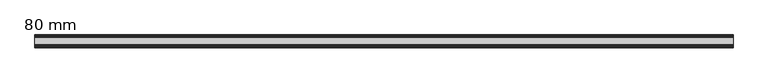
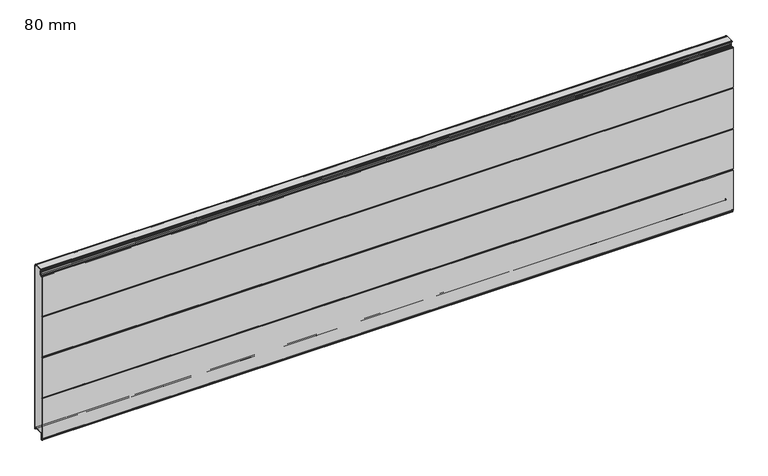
"""IFC4 building model written with IfcOpenShell, lengths in millimetres: plate geometry, HIANSA PANEL - H20.F02.003-PANELES DE FACHADA HORIZONTAL - PANEL SEMILISO - Panel de Muro Cortina : 80 mm."""

from ifc_helpers import new_model, si_unit, point, frame, frame_2d, origin, place, context, project, spatial, polyline, circle_curve, trimmed, segment, composite_curve, outline, extrude, source, transform, mapped, element, save


def plate_80_mm_353dea63(model_context):
    return source(origin(), model_context, "Body", "SweptSolid", [
        extrude(outline(polyline([(-63.7988607, 1122.7800953), (-63.0080811, 1123.2810466), (-13.7002601, 1123.2810466), (-12.8994274, 1122.7800953), (-63.7988607, 1122.7800953)])), frame((-2200.0, 0.0, 0.0), z_axis=(1.0, 0.0, 0.0), x_axis=(0.0, 1.0, 0.0)), (0.0, 0.0, 1.0), 4400.0),
        extrude(outline(polyline([(-63.7713844, 25.3200953), (-12.9220626, 25.3200953), (-13.7002595, 24.8210466), (-63.0110322, 24.8210466), (-63.7713844, 25.3200953)])), frame((-2200.0, 0.0, 0.0), z_axis=(1.0, 0.0, 0.0), x_axis=(0.0, 1.0, 0.0)), (0.0, 0.0, 1.0), 4400.0),
        extrude(outline(composite_curve([segment(polyline([(-79.9990488, 261.2060325), (-78.4829198, 265.1645587), (-79.9990488, 269.1230849), (-79.9990488, 536.2060325), (-78.4829198, 540.1645587), (-79.9990488, 544.1230849), (-79.9990488, 811.2060325), (-78.4829198, 815.1645587), (-79.9990488, 819.1230849), (-79.9990488, 1086.1667807), (-79.3593999, 1088.7253764)]), True, "CONTINUOUS"), segment(trimmed(circle_curve(frame_2d((-77.5161291, 1088.2645587)), 1.9), [point((-79.3593999, 1088.7253764))], [point((-77.5161291, 1090.1645587))], False, "CARTESIAN"), True, "CONTINUOUS"), segment(polyline([(-77.5161291, 1090.1645587), (-75.3767084, 1090.1645587)]), True, "CONTINUOUS"), segment(trimmed(circle_curve(frame_2d((-75.3767084, 1089.1645587)), 1.0), [point((-75.3767084, 1090.1645587))], [point((-74.3767084, 1089.1645587))], False, "CARTESIAN"), True, "CONTINUOUS"), segment(polyline([(-74.3767084, 1089.1645587), (-74.3767084, 1079.2490488)]), True, "CONTINUOUS"), segment(trimmed(circle_curve(frame_2d((-73.3767084, 1079.2490488)), 1.0), [point((-74.3767084, 1079.2490488))], [point((-73.3767084, 1078.2490488))], True, "CARTESIAN"), True, "CONTINUOUS"), segment(polyline([(-73.3767084, 1078.2490488), (-69.1267084, 1078.2490488)]), True, "CONTINUOUS"), segment(trimmed(circle_curve(frame_2d((-69.1267084, 1079.2490488)), 1.0), [point((-69.1267084, 1078.2490488))], [point((-68.1267084, 1079.2490488))], True, "CARTESIAN"), True, "CONTINUOUS"), segment(polyline([(-68.1267084, 1079.2490488), (-68.1267084, 1082.1003519)]), True, "CONTINUOUS"), segment(trimmed(circle_curve(frame_2d((-66.1267084, 1082.1003519)), 2.0), [point((-68.1267084, 1082.1003519))], [point((-67.2738613, 1083.738656))], False, "CARTESIAN"), True, "CONTINUOUS"), segment(polyline([(-67.2738613, 1083.738656), (-61.2163437, 1087.9801754)]), True, "CONTINUOUS"), segment(trimmed(circle_curve(frame_2d((-62.0767084, 1089.2089035)), 1.5), [point((-61.2163437, 1087.9801754))], [point((-60.5767084, 1089.2089035))], True, "CARTESIAN"), True, "CONTINUOUS"), segment(polyline([(-60.5767084, 1089.2089035), (-60.5767084, 1098.4402031), (-59.6767084, 1099.9990488), (-60.5767084, 1101.5578945), (-60.5767084, 1110.7891941)]), True, "CONTINUOUS"), segment(trimmed(circle_curve(frame_2d((-62.0767084, 1110.7891941)), 1.5), [point((-60.5767084, 1110.7891941))], [point((-61.2163437, 1112.0179221))], True, "CARTESIAN"), True, "CONTINUOUS"), segment(polyline([(-61.2163437, 1112.0179221), (-67.2738613, 1116.2594416)]), True, "CONTINUOUS"), segment(trimmed(circle_curve(frame_2d((-66.1267084, 1117.8977457)), 2.0), [point((-67.2738613, 1116.2594416))], [point((-68.1267084, 1117.8977457))], False, "CARTESIAN"), True, "CONTINUOUS"), segment(polyline([(-68.1267084, 1117.8977457), (-68.1267084, 1121.2800953)]), True, "CONTINUOUS"), segment(trimmed(circle_curve(frame_2d((-66.1267084, 1121.2800953)), 2.0), [point((-68.1267084, 1121.2800953))], [point((-66.1267084, 1123.2800953))], False, "CARTESIAN"), True, "CONTINUOUS"), segment(polyline([(-66.1267084, 1123.2800953), (-63.0095828, 1123.2800953), (-63.7988607, 1122.7800953), (-66.1267084, 1122.7800953)]), True, "CONTINUOUS"), segment(trimmed(circle_curve(frame_2d((-66.1267084, 1121.2800953)), 1.5), [point((-66.1267084, 1122.7800953))], [point((-67.6267084, 1121.2800953))], True, "CARTESIAN"), True, "CONTINUOUS"), segment(polyline([(-67.6267084, 1121.2800953), (-67.6267084, 1117.8977457)]), True, "CONTINUOUS"), segment(trimmed(circle_curve(frame_2d((-66.1267084, 1117.8977457)), 1.5), [point((-67.6267084, 1117.8977457))], [point((-66.987073, 1116.6690176))], True, "CARTESIAN"), True, "CONTINUOUS"), segment(polyline([(-66.987073, 1116.6690176), (-60.9295555, 1112.4274982)]), True, "CONTINUOUS"), segment(trimmed(circle_curve(frame_2d((-62.0767084, 1110.7891941)), 2.0), [point((-60.9295555, 1112.4274982))], [point((-60.0767084, 1110.7891941))], False, "CARTESIAN"), True, "CONTINUOUS"), segment(polyline([(-60.0767084, 1110.7891941), (-60.0767084, 1101.6918691), (-59.3880333, 1100.4990488)]), True, "CONTINUOUS"), segment(trimmed(circle_curve(frame_2d((-60.2540587, 1099.9990488)), 1.0), [point((-59.3880333, 1100.4990488))], [point((-59.3880333, 1099.4990488))], False, "CARTESIAN"), True, "CONTINUOUS"), segment(polyline([(-59.3880333, 1099.4990488), (-60.0767084, 1098.3062285), (-60.0767084, 1089.2089035)]), True, "CONTINUOUS"), segment(trimmed(circle_curve(frame_2d((-62.0767084, 1089.2089035)), 2.0), [point((-60.0767084, 1089.2089035))], [point((-60.9295555, 1087.5705994))], False, "CARTESIAN"), True, "CONTINUOUS"), segment(polyline([(-60.9295555, 1087.5705994), (-66.987073, 1083.32908)]), True, "CONTINUOUS"), segment(trimmed(circle_curve(frame_2d((-66.1267084, 1082.1003519)), 1.5), [point((-66.987073, 1083.32908))], [point((-67.6267084, 1082.1003519))], True, "CARTESIAN"), True, "CONTINUOUS"), segment(polyline([(-67.6267084, 1082.1003519), (-67.6267084, 1079.2490488)]), True, "CONTINUOUS"), segment(trimmed(circle_curve(frame_2d((-69.1267084, 1079.2490488)), 1.5), [point((-67.6267084, 1079.2490488))], [point((-69.1267084, 1077.7490488))], False, "CARTESIAN"), True, "CONTINUOUS"), segment(polyline([(-69.1267084, 1077.7490488), (-73.3767084, 1077.7490488)]), True, "CONTINUOUS"), segment(trimmed(circle_curve(frame_2d((-73.3767084, 1079.2490488)), 1.5), [point((-73.3767084, 1077.7490488))], [point((-74.8767084, 1079.2490488))], False, "CARTESIAN"), True, "CONTINUOUS"), segment(polyline([(-74.8767084, 1079.2490488), (-74.8767084, 1089.6645587), (-77.5161291, 1089.6645587)]), True, "CONTINUOUS"), segment(trimmed(circle_curve(frame_2d((-77.5161291, 1088.2645587)), 1.4), [point((-77.5161291, 1089.6645587))], [point((-78.8743286, 1088.6041086))], True, "CARTESIAN"), True, "CONTINUOUS"), segment(polyline([(-78.8743286, 1088.6041086), (-79.4990488, 1086.1052279), (-79.4990488, 819.2053746), (-77.9514025, 815.1645587), (-79.4990488, 811.1237428), (-79.4990488, 544.2053746), (-77.9514025, 540.1645587), (-79.4990488, 536.1237428), (-79.4990488, 269.2053746), (-77.9514025, 265.1645587), (-79.4990488, 261.1237428), (-79.4990488, -5.7761105), (-78.8741312, -8.2757808)]), True, "CONTINUOUS"), segment(trimmed(circle_curve(frame_2d((-77.5169431, -7.9364838)), 1.3989577), [point((-78.8741312, -8.2757808))], [point((-77.5169431, -9.3354415))], True, "CARTESIAN"), True, "CONTINUOUS"), segment(polyline([(-77.5169431, -9.3354415), (-75.1267084, -9.3354413)]), True, "CONTINUOUS"), segment(trimmed(circle_curve(frame_2d((-75.1267084, -10.8354413)), 1.5), [point((-75.1267084, -9.3354413))], [point((-73.6267084, -10.8354413))], False, "CARTESIAN"), True, "CONTINUOUS"), segment(polyline([(-73.6267084, -10.8354413), (-73.6267084, -20.7509512), (-68.8767084, -20.7509512), (-68.8767084, 22.7800953)]), True, "CONTINUOUS"), segment(trimmed(circle_curve(frame_2d((-66.3367084, 22.7800953)), 2.54), [point((-68.8767084, 22.7800953))], [point((-66.3367084, 25.3200953))], False, "CARTESIAN"), True, "CONTINUOUS"), segment(polyline([(-66.3367084, 25.3200953), (-63.7713844, 25.3200953), (-63.0095828, 24.8200953), (-66.3367084, 24.8200953)]), True, "CONTINUOUS"), segment(trimmed(circle_curve(frame_2d((-66.3367084, 22.7800953)), 2.04), [point((-66.3367084, 24.8200953))], [point((-68.3767084, 22.7800953))], True, "CARTESIAN"), True, "CONTINUOUS"), segment(polyline([(-68.3767084, 22.7800953), (-68.3767084, -20.2509512)]), True, "CONTINUOUS"), segment(trimmed(circle_curve(frame_2d((-69.3767084, -20.2509512)), 1.0), [point((-68.3767084, -20.2509512))], [point((-69.3767084, -21.2509512))], False, "CARTESIAN"), True, "CONTINUOUS"), segment(polyline([(-69.3767084, -21.2509512), (-73.1267084, -21.2509512)]), True, "CONTINUOUS"), segment(trimmed(circle_curve(frame_2d((-73.1267084, -20.2509512)), 1.0), [point((-73.1267084, -21.2509512))], [point((-74.1267084, -20.2509512))], False, "CARTESIAN"), True, "CONTINUOUS"), segment(polyline([(-74.1267084, -20.2509512), (-74.1267084, -10.8354413)]), True, "CONTINUOUS"), segment(trimmed(circle_curve(frame_2d((-75.1267084, -10.8354413)), 1.0), [point((-74.1267084, -10.8354413))], [point((-75.1267084, -9.8354413))], True, "CARTESIAN"), True, "CONTINUOUS"), segment(polyline([(-75.1267084, -9.8354413), (-77.5161291, -9.8354413)]), True, "CONTINUOUS"), segment(trimmed(circle_curve(frame_2d((-77.5161291, -7.9354413)), 1.9), [point((-77.5161291, -9.8354413))], [point((-79.3593999, -8.396259))], False, "CARTESIAN"), True, "CONTINUOUS"), segment(polyline([(-79.3593999, -8.396259), (-79.9990488, -5.8376633), (-79.9990488, 261.2060325)]), True, "CONTINUOUS")], self_intersect=False)), frame((-2200.0, 0.0, 0.0), z_axis=(1.0, 0.0, 0.0), x_axis=(0.0, 1.0, 0.0)), (0.0, 0.0, 1.0), 4400.0),
        extrude(outline(composite_curve([segment(polyline([(-79.4927405, -5.8041988), (-79.4927405, 261.1436493), (-77.9523542, 265.16551), (-79.5000005, 269.2063259), (-79.5000005, 536.1246941), (-77.9523542, 540.16551), (-79.5000005, 544.2063259), (-79.5000005, 811.1246941), (-77.9523542, 815.16551), (-79.4927405, 819.1873707), (-79.4927405, 1086.1352189), (-78.8752803, 1088.6050599)]), True, "CONTINUOUS"), segment(trimmed(circle_curve(frame_2d((-77.5170808, 1088.26551)), 1.4), [point((-78.8752803, 1088.6050599))], [point((-77.5170808, 1089.66551))], False, "CARTESIAN"), True, "CONTINUOUS"), segment(polyline([(-77.5170808, 1089.66551), (-74.8776601, 1089.66551), (-74.8776601, 1079.2500001)]), True, "CONTINUOUS"), segment(trimmed(circle_curve(frame_2d((-73.3776601, 1079.2500001)), 1.5), [point((-74.8776601, 1079.2500001))], [point((-73.3776601, 1077.7500001))], True, "CARTESIAN"), True, "CONTINUOUS"), segment(polyline([(-73.3776601, 1077.7500001), (-69.1276601, 1077.7500001)]), True, "CONTINUOUS"), segment(trimmed(circle_curve(frame_2d((-69.1276601, 1079.2500001)), 1.5), [point((-69.1276601, 1077.7500001))], [point((-67.6276601, 1079.2500001))], True, "CARTESIAN"), True, "CONTINUOUS"), segment(polyline([(-67.6276601, 1079.2500001), (-67.6276601, 1082.1013032)]), True, "CONTINUOUS"), segment(trimmed(circle_curve(frame_2d((-66.1276601, 1082.1013032)), 1.5), [point((-67.6276601, 1082.1013032))], [point((-66.9880247, 1083.3300313))], False, "CARTESIAN"), True, "CONTINUOUS"), segment(polyline([(-66.9880247, 1083.3300313), (-60.9305072, 1087.5715507)]), True, "CONTINUOUS"), segment(trimmed(circle_curve(frame_2d((-62.0776601, 1089.2098548)), 2.0), [point((-60.9305072, 1087.5715507))], [point((-60.0776601, 1089.2098548))], True, "CARTESIAN"), True, "CONTINUOUS"), segment(polyline([(-60.0776601, 1089.2098548), (-60.0776601, 1098.3071798), (-59.3889849, 1099.5000001)]), True, "CONTINUOUS"), segment(trimmed(circle_curve(frame_2d((-60.2550103, 1100.0000001)), 1.0), [point((-59.3889849, 1099.5000001))], [point((-59.3889849, 1100.5000001))], True, "CARTESIAN"), True, "CONTINUOUS"), segment(polyline([(-59.3889849, 1100.5000001), (-60.0776601, 1101.6928204), (-60.0776601, 1110.7901454)]), True, "CONTINUOUS"), segment(trimmed(circle_curve(frame_2d((-62.0776601, 1110.7901454)), 2.0), [point((-60.0776601, 1110.7901454))], [point((-60.9305072, 1112.4284495))], True, "CARTESIAN"), True, "CONTINUOUS"), segment(polyline([(-60.9305072, 1112.4284495), (-66.9880247, 1116.6699689)]), True, "CONTINUOUS"), segment(trimmed(circle_curve(frame_2d((-66.1276601, 1117.898697)), 1.5), [point((-66.9880247, 1116.6699689))], [point((-67.6276601, 1117.898697))], False, "CARTESIAN"), True, "CONTINUOUS"), segment(polyline([(-67.6276601, 1117.898697), (-67.6276601, 1121.2810466)]), True, "CONTINUOUS"), segment(trimmed(circle_curve(frame_2d((-66.1276601, 1121.2810466)), 1.5), [point((-67.6276601, 1121.2810466))], [point((-66.1276601, 1122.7810466))], False, "CARTESIAN"), True, "CONTINUOUS"), segment(polyline([(-66.1276601, 1122.7810466), (-7.7500005, 1122.7810466)]), True, "CONTINUOUS"), segment(trimmed(circle_curve(frame_2d((-7.7500005, 1121.7810466)), 1.0), [point((-7.7500005, 1122.7810466))], [point((-6.7500005, 1121.7810466))], False, "CARTESIAN"), True, "CONTINUOUS"), segment(polyline([(-6.7500005, 1121.7810466), (-6.7500005, 1115.631732)]), True, "CONTINUOUS"), segment(trimmed(circle_curve(frame_2d((-4.7460005, 1115.631732)), 2.004), [point((-6.7500005, 1115.631732))], [point((-4.7460005, 1113.627732))], True, "CARTESIAN"), True, "CONTINUOUS"), segment(polyline([(-4.7460005, 1113.627732), (-1.5, 1113.627732)]), True, "CONTINUOUS"), segment(trimmed(circle_curve(frame_2d((-1.5, 1112.627732)), 1.0), [point((-1.5, 1113.627732))], [point((-0.5, 1112.627732))], False, "CARTESIAN"), True, "CONTINUOUS"), segment(polyline([(-0.5, 1112.627732), (-0.5, 1087.7488722), (-1.5000005, 1084.7488708), (-1.5000005, 1044.5865932), (-0.5000005, 1041.5865932), (-0.5000005, 996.7488708), (-1.5000005, 993.7488708), (-1.5000005, 953.5865932), (-0.5000005, 950.5865932), (-0.5000005, 905.7488708), (-1.5000005, 902.7488708), (-1.5000005, 862.5865932), (-0.5000005, 859.5865932), (-0.5000005, 814.7488708), (-1.5000005, 811.7488708), (-1.5000005, 771.5865932), (-0.5000005, 768.5865932), (-0.5000005, 723.7488708), (-1.5000005, 720.7488708), (-1.5000005, 680.5865932), (-0.5000005, 677.5865932), (-0.5000005, 632.7488708), (-1.5000005, 629.7488708), (-1.5000005, 589.5865932), (-0.5000005, 586.5865932), (-0.5000005, 541.7488708), (-1.5000005, 538.7488708), (-1.5000005, 498.5865932), (-0.5000005, 495.5865932), (-0.5000005, 450.7488708), (-1.5000005, 447.7488708), (-1.5000005, 407.5865932), (-0.5000005, 404.5865932), (-0.5000005, 359.7488708), (-1.5000005, 356.7488708), (-1.5000005, 316.5865932), (-0.5000005, 313.5865932), (-0.5000005, 268.7488708), (-1.5000005, 265.7488708), (-1.5000005, 225.5865932), (-0.5000005, 222.5865932), (-0.5000005, 177.7488708), (-1.5000005, 174.7488708), (-1.5000005, 134.5865932), (-0.5000005, 131.5865932), (-0.5000005, 86.7488708), (-1.5000005, 83.7488708), (-1.5000005, 43.5865932), (-0.5, 40.5865932), (-0.5, 15.6677319)]), True, "CONTINUOUS"), segment(trimmed(circle_curve(frame_2d((-1.4999997, 15.6677319)), 0.9999997), [point((-0.5, 15.6677319))], [point((-1.4999977, 14.6677322))], False, "CARTESIAN"), True, "CONTINUOUS"), segment(polyline([(-1.4999977, 14.6677322), (-4.4999978, 14.6677261)]), True, "CONTINUOUS"), segment(trimmed(circle_curve(frame_2d((-4.4999998, 15.6677321)), 1.0000061), [point((-4.4999978, 14.6677261))], [point((-5.5000059, 15.6677321))], False, "CARTESIAN"), True, "CONTINUOUS"), segment(polyline([(-5.5000059, 15.6677321), (-5.5000059, 23.2810466)]), True, "CONTINUOUS"), segment(trimmed(circle_curve(frame_2d((-7.540006, 23.2810466)), 2.0400002), [point((-5.5000059, 23.2810466))], [point((-7.540006, 25.3210467))], True, "CARTESIAN"), True, "CONTINUOUS"), segment(polyline([(-7.540006, 25.3210467), (-66.3376599, 25.3210467)]), True, "CONTINUOUS"), segment(trimmed(circle_curve(frame_2d((-66.3376599, 22.7810466)), 2.5400001), [point((-66.3376599, 25.3210467))], [point((-68.8776601, 22.7810466))], True, "CARTESIAN"), True, "CONTINUOUS"), segment(polyline([(-68.8776601, 22.7810466), (-68.8776601, -20.7499999), (-73.6276601, -20.7499999), (-73.6276601, -10.83449)]), True, "CONTINUOUS"), segment(trimmed(circle_curve(frame_2d((-75.1276601, -10.83449)), 1.5), [point((-73.6276601, -10.83449))], [point((-75.1276601, -9.33449))], True, "CARTESIAN"), True, "CONTINUOUS"), segment(polyline([(-75.1276601, -9.33449), (-77.5178947, -9.33449)]), True, "CONTINUOUS"), segment(trimmed(circle_curve(frame_2d((-77.5178947, -7.9355324)), 1.3989576), [point((-77.5178947, -9.33449))], [point((-78.8750829, -8.2748295))], False, "CARTESIAN"), True, "CONTINUOUS"), segment(polyline([(-78.8750829, -8.2748295), (-79.4927405, -5.8041988)]), True, "CONTINUOUS")], self_intersect=False)), frame((-2200.0, 0.0, 0.0), z_axis=(1.0, 0.0, 0.0), x_axis=(0.0, 1.0, 0.0)), (0.0, 0.0, 1.0), 4400.0),
        extrude(outline(composite_curve([segment(polyline([(-13.7002597, 24.8210465), (-12.9205793, 25.3210465), (-7.5400057, 25.3210465)]), True, "CONTINUOUS"), segment(trimmed(circle_curve(frame_2d((-7.5400057, 23.2810465)), 2.04), [point((-7.5400057, 25.3210465))], [point((-5.5000057, 23.2810465))], False, "CARTESIAN"), True, "CONTINUOUS"), segment(polyline([(-5.5000057, 23.2810465), (-5.5000057, 15.6677319)]), True, "CONTINUOUS"), segment(trimmed(circle_curve(frame_2d((-4.5, 15.6677319)), 1.0000057), [point((-5.5000057, 15.6677319))], [point((-4.4999981, 14.6677262))], True, "CARTESIAN"), True, "CONTINUOUS"), segment(polyline([(-4.4999981, 14.6677262), (-1.4999981, 14.6677319)]), True, "CONTINUOUS"), segment(trimmed(circle_curve(frame_2d((-1.5, 15.6677319)), 1.0), [point((-1.4999981, 14.6677319))], [point((-0.5, 15.6677319))], True, "CARTESIAN"), True, "CONTINUOUS"), segment(polyline([(-0.5, 15.6677319), (-0.5, 40.5865931), (-1.5, 43.5865931), (-1.5, 83.7488708), (-0.5, 86.7488708), (-0.5, 131.5865931), (-1.5, 134.5865931), (-1.5, 174.7488708), (-0.5, 177.7488708), (-0.5, 222.5865931), (-1.5, 225.5865931), (-1.5, 265.7488708), (-0.5, 268.7488708), (-0.5, 313.5865931), (-1.5, 316.5865931), (-1.5, 356.7488708), (-0.5, 359.7488708), (-0.5, 404.5865931), (-1.5, 407.5865931), (-1.5, 447.7488708), (-0.5, 450.7488708), (-0.5, 495.5865931), (-1.5, 498.5865931), (-1.5, 538.7488708), (-0.5, 541.7488708), (-0.5, 586.5865931), (-1.5, 589.5865931), (-1.5, 629.7488708), (-0.5, 632.7488708), (-0.5, 677.5865931), (-1.5, 680.5865931), (-1.5, 720.7488708), (-0.5, 723.7488708), (-0.5, 768.5865931), (-1.5, 771.5865931), (-1.5, 811.7488708), (-0.5, 814.7488708), (-0.5, 859.5865931), (-1.5, 862.5865931), (-1.5, 902.7488708), (-0.5, 905.7488708), (-0.5, 950.5865931), (-1.5, 953.5865931), (-1.5, 993.7488708), (-0.5, 996.7488708), (-0.5, 1041.5865931), (-1.5, 1044.5865931), (-1.5, 1084.7488708), (-0.5, 1087.7488708), (-0.5, 1112.6277319)]), True, "CONTINUOUS"), segment(trimmed(circle_curve(frame_2d((-1.5, 1112.6277319)), 1.0), [point((-0.5, 1112.6277319))], [point((-1.5, 1113.6277319))], True, "CARTESIAN"), True, "CONTINUOUS"), segment(polyline([(-1.5, 1113.6277319), (-4.746, 1113.6277319)]), True, "CONTINUOUS"), segment(trimmed(circle_curve(frame_2d((-4.746, 1115.6317319)), 2.004), [point((-4.746, 1113.6277319))], [point((-6.75, 1115.6317319))], False, "CARTESIAN"), True, "CONTINUOUS"), segment(polyline([(-6.75, 1115.6317319), (-6.75, 1121.7810465)]), True, "CONTINUOUS"), segment(trimmed(circle_curve(frame_2d((-7.75, 1121.7810465)), 1.0), [point((-6.75, 1121.7810465))], [point((-7.75, 1122.7810465))], True, "CARTESIAN"), True, "CONTINUOUS"), segment(polyline([(-7.75, 1122.7810465), (-12.9009477, 1122.7810465), (-13.7002597, 1123.2810465), (-7.7500057, 1123.2810465)]), True, "CONTINUOUS"), segment(trimmed(circle_curve(frame_2d((-7.7500057, 1121.7810465)), 1.5), [point((-7.7500057, 1123.2810465))], [point((-6.2500057, 1121.7810465))], False, "CARTESIAN"), True, "CONTINUOUS"), segment(polyline([(-6.2500057, 1121.7810465), (-6.2500057, 1115.631727)]), True, "CONTINUOUS"), segment(trimmed(circle_curve(frame_2d((-4.7460057, 1115.631727)), 1.504), [point((-6.2500057, 1115.631727))], [point((-4.7460034, 1114.127727))], True, "CARTESIAN"), True, "CONTINUOUS"), segment(polyline([(-4.7460034, 1114.127727), (-1.5000023, 1114.1277319)]), True, "CONTINUOUS"), segment(trimmed(circle_curve(frame_2d((-1.5, 1112.6277319)), 1.5), [point((-1.5000023, 1114.1277319))], [point((0.0, 1112.6277319))], False, "CARTESIAN"), True, "CONTINUOUS"), segment(polyline([(0.0, 1112.6277319), (0.0, 1087.6677319), (-1.0, 1084.6677319), (-1.0, 1044.6677319), (0.0, 1041.6677319), (0.0, 996.6677319), (-1.0, 993.6677319), (-1.0, 953.6677319), (0.0, 950.6677319), (0.0, 905.6677319), (-1.0, 902.6677319), (-1.0, 862.6677319), (0.0, 859.6677319), (0.0, 814.6677319), (-1.0, 811.6677319), (-1.0, 771.6677319), (0.0, 768.6677319), (0.0, 723.6677319), (-1.0, 720.6677319), (-1.0, 680.6677319), (0.0, 677.6677319), (0.0, 632.6677319), (-1.0, 629.6677319), (-1.0, 589.6677319), (0.0, 586.6677319), (0.0, 541.6677319), (-1.0, 538.6677319), (-1.0, 498.6677319), (0.0, 495.6677319), (0.0, 450.6677319), (-1.0, 447.6677319), (-1.0, 407.6677319), (0.0, 404.6677319), (0.0, 359.6677319), (-1.0, 356.6677319), (-1.0, 316.6677319), (0.0, 313.6677319), (0.0, 268.6677319), (-1.0, 265.6677319), (-1.0, 225.6677319), (0.0, 222.6677319), (0.0, 177.6677319), (-1.0, 174.6677319), (-1.0, 134.6677319), (0.0, 131.6677319), (0.0, 86.6677319), (-1.0, 83.6677319), (-1.0, 43.6677319), (0.0, 40.6677319), (0.0, 15.6677319)]), True, "CONTINUOUS"), segment(trimmed(circle_curve(frame_2d((-1.5, 15.6677319)), 1.5), [point((0.0, 15.6677319))], [point((-1.5, 14.1677319))], False, "CARTESIAN"), True, "CONTINUOUS"), segment(polyline([(-1.5, 14.1677319), (-4.5, 14.1677319)]), True, "CONTINUOUS"), segment(trimmed(circle_curve(frame_2d((-4.5, 15.6677319)), 1.5), [point((-4.5, 14.1677319))], [point((-6.0, 15.6677319))], False, "CARTESIAN"), True, "CONTINUOUS"), segment(polyline([(-6.0, 15.6677319), (-6.0, 23.2810465)]), True, "CONTINUOUS"), segment(trimmed(circle_curve(frame_2d((-7.54, 23.2810465)), 1.54), [point((-6.0, 23.2810465))], [point((-7.54, 24.8210465))], True, "CARTESIAN"), True, "CONTINUOUS"), segment(polyline([(-7.54, 24.8210465), (-13.7002597, 24.8210465)]), True, "CONTINUOUS")], self_intersect=False)), frame((-2200.0, 0.0, 0.0), z_axis=(1.0, 0.0, 0.0), x_axis=(0.0, 1.0, 0.0)), (0.0, 0.0, 1.0), 4400.0),
    ])


if __name__ == "__main__":
    model = new_model("IFC4")
    model_context = context("Model", 3, world=origin())
    ifc_project = project(units=[si_unit("LENGTHUNIT", "METRE", prefix="MILLI")], contexts=[model_context])
    site = spatial("IfcSite", under=ifc_project)
    building = spatial("IfcBuilding", under=site)
    placement = place(None, origin())
    plate_80_mm_shape = plate_80_mm_353dea63(model_context)
    element("IfcPlate", 1, ObjectType="HIANSA PANEL - H20.F02.003-PANELES DE FACHADA HORIZONTAL - PANEL SEMILISO - Panel de Muro Cortina : 80 mm", at=placement, inside=building, context=model_context, shape_type="MappedRepresentation", body=[
        mapped(plate_80_mm_shape, transform((0.0, 0.0, 0.0), x_axis=(1.0, 0.0, 0.0), y_axis=(0.0, 1.0, 0.0), z_axis=(0.0, 0.0, 1.0))),
    ])
    save(model, "model.ifc")
